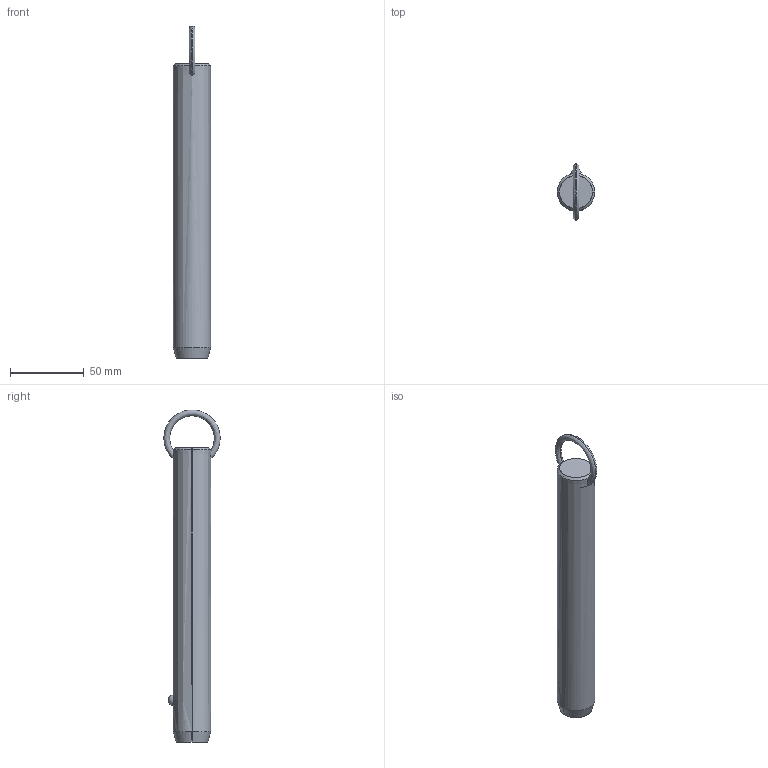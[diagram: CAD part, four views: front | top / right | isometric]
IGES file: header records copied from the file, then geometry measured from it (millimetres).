
Start section: SolidWorks IGES file using analytic representation for surfaces
Global section: file name: C:\Users\liam_\OneDrive\Documents\WORK\Work for WixRoyd\Job Files\J-00019 - Matt Davis CAD Checking\04. CAD Drawings\automotion20190605\P1250.2_v2\P1250.2_v2_20190729_IGES\P1250.100-610.igs; native system: SolidWorks 2017; preprocessor: SolidWorks 2017; author: liam_; date: 190730.174642; units: millimetre
Bounding box: 25.4 x 38.1 x 224.69 mm (x, y, z)
Surface area: 17676.8 mm2 (no closed solid volume)
Topology: 0 solids, 0 shells, 12 faces, 298 edges, 296 vertices
Faces by surface type: revolution 8, bspline 4
